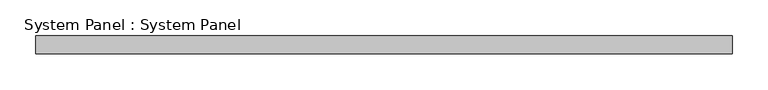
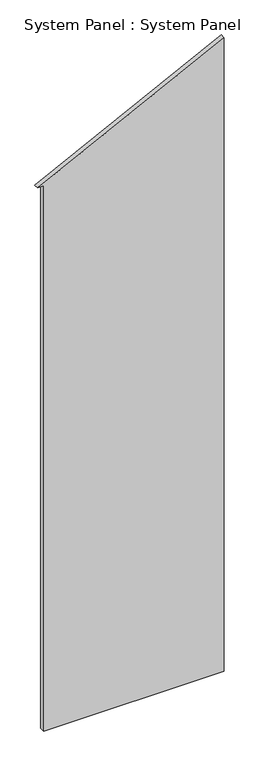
"""IFC4 building model written with IfcOpenShell, lengths in millimetres: plate geometry, System Panel : System Panel."""

from ifc_helpers import new_model, si_unit, frame, origin, place, context, project, spatial, polyline, outline, extrude, source, transform, mapped, element, save


def system_panel_system_panel_4e58ff57(model_context):
    return source(origin(), model_context, "Body", "SweptSolid", [
        extrude(outline(polyline([(0.0, 489.74375), (3512.34375, 489.74375), (3022.6, -489.74375), (3022.6, -457.99375), (0.0, -457.99375), (0.0, 489.74375)])), frame((0.0, 19.05, 0.0), z_axis=(0.0, 1.0, 0.0), x_axis=(0.0, 0.0, 1.0)), (0.0, 0.0, 1.0), 25.4),
    ])


if __name__ == "__main__":
    model = new_model("IFC4")
    model_context = context("Model", 3, world=origin())
    ifc_project = project(units=[si_unit("LENGTHUNIT", "METRE", prefix="MILLI")], contexts=[model_context])
    site = spatial("IfcSite", under=ifc_project)
    building = spatial("IfcBuilding", under=site)
    placement = place(None, origin())
    system_panel_system_panel_shape = system_panel_system_panel_4e58ff57(model_context)
    element("IfcPlate", 1, ObjectType="System Panel : System Panel", at=placement, inside=building, context=model_context, shape_type="MappedRepresentation", body=[
        mapped(system_panel_system_panel_shape, transform((0.0, 0.0, 0.0), x_axis=(1.0, 0.0, 0.0), y_axis=(0.0, 1.0, 0.0), z_axis=(0.0, 0.0, 1.0))),
    ])
    save(model, "model.ifc")
